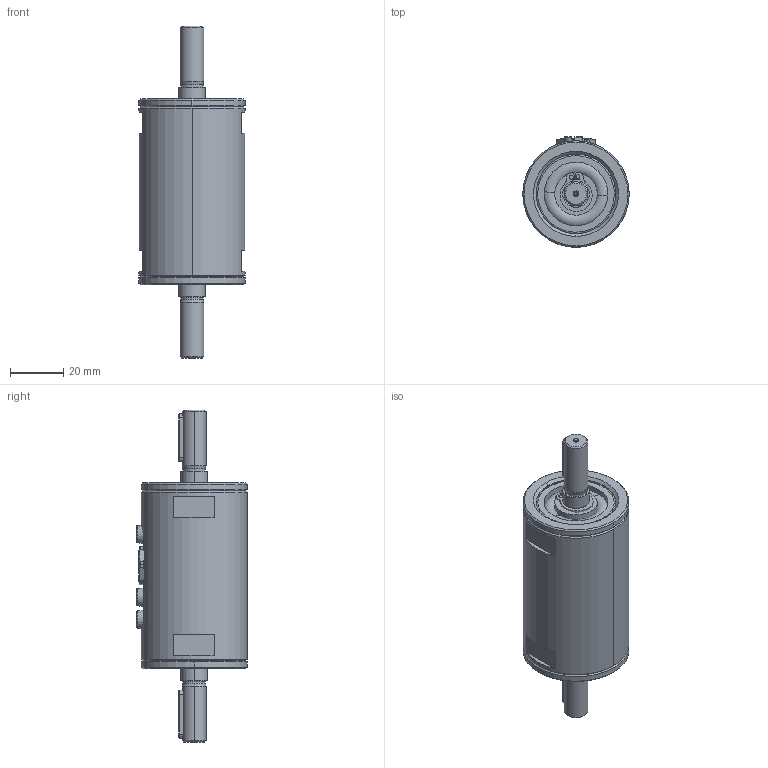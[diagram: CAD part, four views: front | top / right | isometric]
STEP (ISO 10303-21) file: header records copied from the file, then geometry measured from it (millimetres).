
FILE_DESCRIPTION (( 'STEP AP203' ), '1' );
FILE_NAME ('400006-ATS005_17,5Nm-10mm-Rund.STEP', '2017-02-20T10:11:34', ( '' ), ( '' ), 'SwSTEP 2.0', 'SolidWorks 2016', '' );
FILE_SCHEMA (( 'CONFIG_CONTROL_DESIGN' ));
Length unit declared in the file: millimetre
Products named in the file (15): 400006-ATE009-Binder-712-0416-90-05; 400006-ATM004_Rohrgehäuse-40mm; 400006-ATM005_Lagerdeckel-10mm; 400006-ATS021-PCB12_mit_Stecker_Welle 10mm; Circlip DIN 471 - 10 x 1_Circlip DIN 471 - 10 x 1; 400006-ATM019_Welle10mm-Rund; ISO 1207 - M4 x 4 --- 4S_ISO 1207 - M4 x 4 --- 4S; 400006-ATM002-Mutter-Binder-Stecker; 400006-ATS005_17,5Nm-10mm-Rund; DIN 625 - 6200 - 8,SI,NC,8_68_DIN 625 - 6200 - Full,SI,NC,Full_68; DIN 988-22x30x0.5_DIN 988-22x30x0.5; Parallel key A3 x 3 x 18 DIN 6885_Parallel key A3 x 3 x 18 DIN 6885; ISO 1207 - M4 x 5 --- 5S_ISO 1207 - M4 x 5 --- 5S; ISO 4762 M3 x 5 --- 5S_DIN 912 M3 x 5 --- 5S; 999999-ATN087-Tellerfeder-29,7x17,3_Standard
Assembly tree (22 placements, depth 3):
  400006-ATS005_17,5Nm-10mm-Rund
    400006-ATM019_Welle10mm-Rund
    400006-ATS021-PCB12_mit_Stecker_Welle 10mm
      400006-ATE009-Binder-712-0416-90-05
    ISO 4762 M3 x 5 --- 5S_DIN 912 M3 x 5 --- 5S  x4
    400006-ATM004_Rohrgehäuse-40mm
    400006-ATM005_Lagerdeckel-10mm  x2
    999999-ATN087-Tellerfeder-29,7x17,3_Standard
    DIN 625 - 6200 - 8,SI,NC,8_68_DIN 625 - 6200 - Full,SI,NC,Full_68  x2
    ISO 1207 - M4 x 5 --- 5S_ISO 1207 - M4 x 5 --- 5S  x2
    ISO 1207 - M4 x 4 --- 4S_ISO 1207 - M4 x 4 --- 4S
    Circlip DIN 471 - 10 x 1_Circlip DIN 471 - 10 x 1  x2
    Parallel key A3 x 3 x 18 DIN 6885_Parallel key A3 x 3 x 18 DIN 6885  x2
    DIN 988-22x30x0.5_DIN 988-22x30x0.5
    400006-ATM002-Mutter-Binder-Stecker
Bounding box: 40 x 41.6 x 125 mm (x, y, z)
Volume: 51225.3 mm3; surface area: 40421.7 mm2
Topology: 21 solids, 21 shells, 957 faces, 2307 edges, 1427 vertices
Faces by surface type: cylinder 332, cone 292, plane 243, torus 76, bspline 14
Entity records: 21176 total; most frequent: CARTESIAN_POINT 4839, DIRECTION 3243, ORIENTED_EDGE 2930, EDGE_CURVE 1465, AXIS2_PLACEMENT_3D 1340, VERTEX_POINT 922, CIRCLE 713, EDGE_LOOP 687
